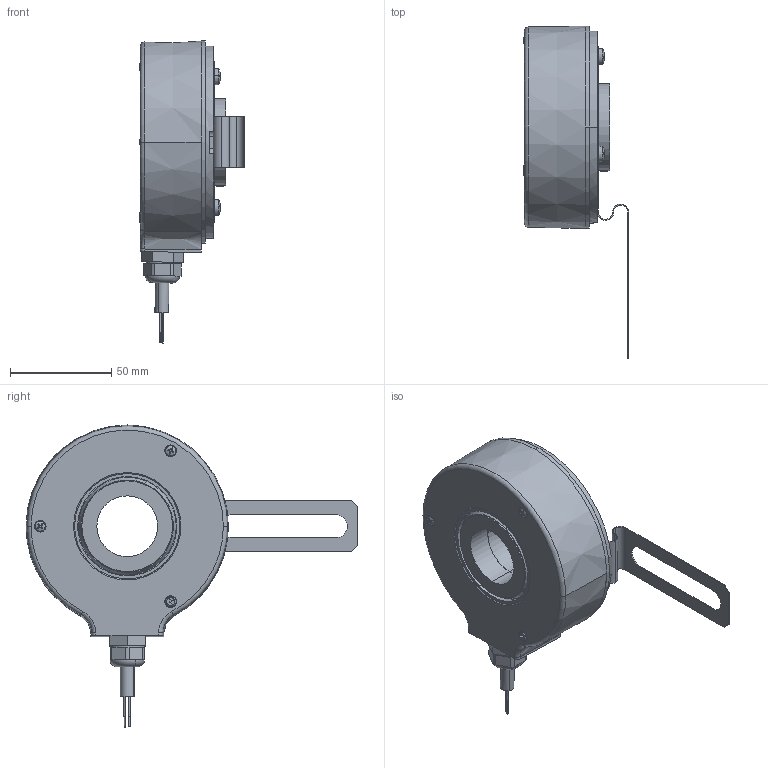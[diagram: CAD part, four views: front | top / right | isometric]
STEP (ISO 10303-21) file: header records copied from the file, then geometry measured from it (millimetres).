
FILE_DESCRIPTION (( 'STEP AP203' ), '1' );
FILE_NAME ('A020.5AX1.XXXX.STEP', '2011-11-03T07:45:36', ( 'Hodot' ), ( 'Kuebler' ), 'SwSTEP 2.0', 'SolidWorks 2009', '' );
FILE_SCHEMA (( 'CONFIG_CONTROL_DESIGN' ));
Length unit declared in the file: millimetre
Products named in the file (1): A020.5AX1.XXXX
Bounding box: 52.1 x 164 x 149.2 mm (x, y, z)
Volume: 162270.9 mm3; surface area: 92065.4 mm2
Topology: 19 solids, 19 shells, 724 faces, 1844 edges, 1137 vertices
Faces by surface type: cylinder 249, plane 244, cone 117, sphere 58, torus 44, bspline 12
Entity records: 24363 total; most frequent: CARTESIAN_POINT 7225, DIRECTION 3745, ORIENTED_EDGE 3380, EDGE_CURVE 1690, AXIS2_PLACEMENT_3D 1518, VERTEX_POINT 1065, EDGE_LOOP 895, CIRCLE 805
